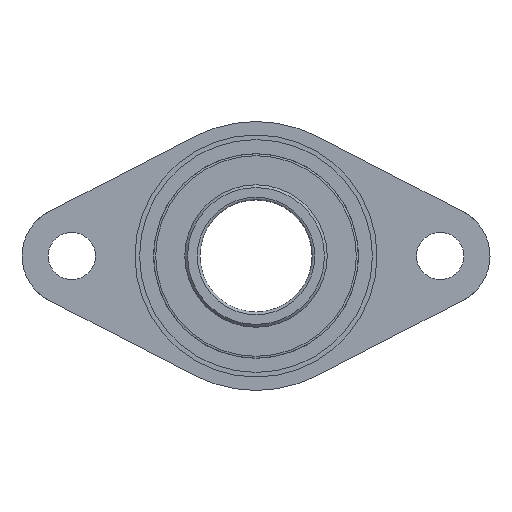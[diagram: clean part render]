
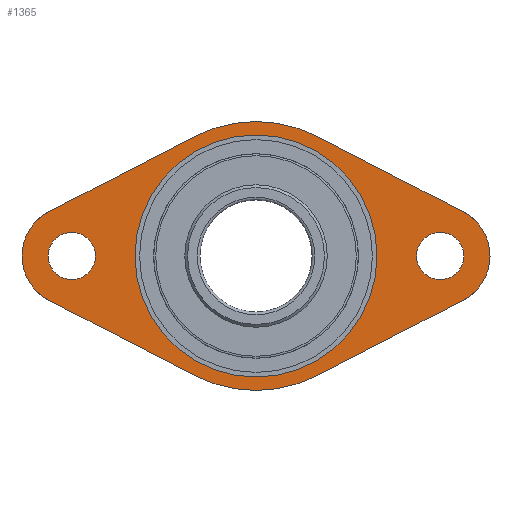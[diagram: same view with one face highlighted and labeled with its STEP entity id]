
A CAD part, left-side view. The second image highlights one B-rep face of the part: STEP entity #1365.
In plain terms, the highlighted planar face has unit normal (-1, 0, 0).
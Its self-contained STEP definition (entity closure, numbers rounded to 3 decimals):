
#8 = CIRCLE ( 'NONE', #1864, 9.5 ) ;
#11 = LINE ( 'NONE', #2643, #15 ) ;
#15 = VECTOR ( 'NONE', #2781, 1000. ) ;
#20 = CIRCLE ( 'NONE', #1873, 20. ) ;
#44 = LINE ( 'NONE', #2506, #49 ) ;
#49 = VECTOR ( 'NONE', #2202, 1000. ) ;
#52 = CIRCLE ( 'NONE', #1912, 54. ) ;
#61 = CIRCLE ( 'NONE', #1944, 20. ) ;
#110 = EDGE_LOOP ( 'NONE', ( #1507, #1486, #295, #230, #2490, #2654, #190, #135 ) ) ;
#135 = ORIENTED_EDGE ( 'NONE', *, *, #1926, .F. ) ;
#162 = PLANE ( 'NONE',  #1489 ) ;
#186 = CARTESIAN_POINT ( 'NONE',  ( -22., 24.811, -47.963 ) ) ;
#190 = ORIENTED_EDGE ( 'NONE', *, *, #1261, .T. ) ;
#214 = CARTESIAN_POINT ( 'NONE',  ( -22., -74., -9.5 ) ) ;
#215 = LINE ( 'NONE', #1549, #260 ) ;
#226 = CARTESIAN_POINT ( 'NONE',  ( -22., 0., -48.6 ) ) ;
#227 = CARTESIAN_POINT ( 'NONE',  ( -22., 74., -9.5 ) ) ;
#228 = CARTESIAN_POINT ( 'NONE',  ( -22., 0., 0. ) ) ;
#229 = DIRECTION ( 'NONE',  ( 1., 0., 0. ) ) ;
#230 = ORIENTED_EDGE ( 'NONE', *, *, #1125, .F. ) ;
#235 = DIRECTION ( 'NONE',  ( 0., 0., -1. ) ) ;
#243 = CARTESIAN_POINT ( 'NONE',  ( -22., 0., 0. ) ) ;
#248 = LINE ( 'NONE', #1518, #264 ) ;
#253 = DIRECTION ( 'NONE',  ( 1., 0., 0. ) ) ;
#256 = DIRECTION ( 'NONE',  ( 0., 0., -1. ) ) ;
#260 = VECTOR ( 'NONE', #1535, 1000. ) ;
#264 = VECTOR ( 'NONE', #1509, 1000. ) ;
#294 = CARTESIAN_POINT ( 'NONE',  ( -22., 83.189, 17.764 ) ) ;
#295 = ORIENTED_EDGE ( 'NONE', *, *, #769, .T. ) ;
#321 = EDGE_LOOP ( 'NONE', ( #2259 ) ) ;
#468 = VERTEX_POINT ( 'NONE', #1498 ) ;
#583 = CARTESIAN_POINT ( 'NONE',  ( -22., -24.811, 47.963 ) ) ;
#584 = EDGE_LOOP ( 'NONE', ( #1978 ) ) ;
#594 = CARTESIAN_POINT ( 'NONE',  ( -22., -74., 0. ) ) ;
#595 = DIRECTION ( 'NONE',  ( 1., 0., 0. ) ) ;
#596 = VERTEX_POINT ( 'NONE', #186 ) ;
#599 = DIRECTION ( 'NONE',  ( 0., 0., -1. ) ) ;
#743 = ORIENTED_EDGE ( 'NONE', *, *, #1286, .T. ) ;
#769 = EDGE_CURVE ( 'E240', #2550, #2856, #248, .T. ) ;
#790 = EDGE_CURVE ( 'E329', #894, #468, #215, .T. ) ;
#855 = VERTEX_POINT ( 'NONE', #1602 ) ;
#894 = VERTEX_POINT ( 'NONE', #1651 ) ;
#1111 = EDGE_CURVE ( 'E246', #2550, #894, #61, .T. ) ;
#1125 = EDGE_CURVE ( 'E214', #2318, #2856, #52, .T. ) ;
#1151 = EDGE_CURVE ( 'E193', #1481, #2318, #44, .T. ) ;
#1259 = EDGE_CURVE ( 'E382', #855, #1481, #20, .T. ) ;
#1261 = EDGE_CURVE ( 'E376', #855, #596, #11, .T. ) ;
#1286 = EDGE_CURVE ( 'NONE', #1397, #1397, #8, .T. ) ;
#1320 = EDGE_CURVE ( 'NONE', #1392, #1392, #2594, .T. ) ;
#1365 = ADVANCED_FACE ( 'E454', ( #2725, #2598, #2835, #2956 ), #162, .F. ) ;
#1373 = VERTEX_POINT ( 'NONE', #214 ) ;
#1392 = VERTEX_POINT ( 'NONE', #226 ) ;
#1397 = VERTEX_POINT ( 'NONE', #227 ) ;
#1481 = VERTEX_POINT ( 'NONE', #294 ) ;
#1486 = ORIENTED_EDGE ( 'NONE', *, *, #1111, .F. ) ;
#1489 = AXIS2_PLACEMENT_3D ( 'NONE', #243, #253, #256 ) ;
#1498 = CARTESIAN_POINT ( 'NONE',  ( -22., -24.811, -47.963 ) ) ;
#1507 = ORIENTED_EDGE ( 'NONE', *, *, #790, .F. ) ;
#1509 = DIRECTION ( 'NONE',  ( 0., 0.888, 0.459 ) ) ;
#1518 = CARTESIAN_POINT ( 'NONE',  ( -22., -83.189, 17.764 ) ) ;
#1535 = DIRECTION ( 'NONE',  ( 0., 0.888, -0.459 ) ) ;
#1549 = CARTESIAN_POINT ( 'NONE',  ( -22., -83.189, -17.764 ) ) ;
#1602 = CARTESIAN_POINT ( 'NONE',  ( -22., 83.189, -17.764 ) ) ;
#1651 = CARTESIAN_POINT ( 'NONE',  ( -22., -83.189, -17.764 ) ) ;
#1652 = EDGE_LOOP ( 'NONE', ( #743 ) ) ;
#1659 = CARTESIAN_POINT ( 'NONE',  ( -22., -83.189, 17.764 ) ) ;
#1722 = AXIS2_PLACEMENT_3D ( 'NONE', #2125, #2177, #2097 ) ;
#1788 = EDGE_CURVE ( 'NONE', #1373, #1373, #2773, .T. ) ;
#1790 = AXIS2_PLACEMENT_3D ( 'NONE', #594, #595, #599 ) ;
#1855 = AXIS2_PLACEMENT_3D ( 'NONE', #228, #229, #235 ) ;
#1864 = AXIS2_PLACEMENT_3D ( 'NONE', #2900, #2921, #2923 ) ;
#1873 = AXIS2_PLACEMENT_3D ( 'NONE', #2814, #2823, #2834 ) ;
#1897 = CARTESIAN_POINT ( 'NONE',  ( -22., 24.811, 47.963 ) ) ;
#1912 = AXIS2_PLACEMENT_3D ( 'NONE', #2152, #2157, #2164 ) ;
#1926 = EDGE_CURVE ( 'E350', #468, #596, #2780, .T. ) ;
#1944 = AXIS2_PLACEMENT_3D ( 'NONE', #2098, #2104, #2108 ) ;
#1978 = ORIENTED_EDGE ( 'NONE', *, *, #1788, .T. ) ;
#2097 = DIRECTION ( 'NONE',  ( 0., 0., -1. ) ) ;
#2098 = CARTESIAN_POINT ( 'NONE',  ( -22., -74., 0. ) ) ;
#2104 = DIRECTION ( 'NONE',  ( 1., 0., 0. ) ) ;
#2108 = DIRECTION ( 'NONE',  ( 0., 0., -1. ) ) ;
#2125 = CARTESIAN_POINT ( 'NONE',  ( -22., 0., 0. ) ) ;
#2152 = CARTESIAN_POINT ( 'NONE',  ( -22., 0., 0. ) ) ;
#2157 = DIRECTION ( 'NONE',  ( 1., 0., 0. ) ) ;
#2164 = DIRECTION ( 'NONE',  ( 0., 0., -1. ) ) ;
#2177 = DIRECTION ( 'NONE',  ( 1., 0., 0. ) ) ;
#2202 = DIRECTION ( 'NONE',  ( 0., -0.888, 0.459 ) ) ;
#2259 = ORIENTED_EDGE ( 'NONE', *, *, #1320, .T. ) ;
#2318 = VERTEX_POINT ( 'NONE', #1897 ) ;
#2490 = ORIENTED_EDGE ( 'NONE', *, *, #1151, .F. ) ;
#2506 = CARTESIAN_POINT ( 'NONE',  ( -22., 83.189, 17.764 ) ) ;
#2550 = VERTEX_POINT ( 'NONE', #1659 ) ;
#2594 = CIRCLE ( 'NONE', #1855, 48.6 ) ;
#2598 = FACE_BOUND ( 'NONE', #584, .T. ) ;
#2643 = CARTESIAN_POINT ( 'NONE',  ( -22., 83.189, -17.764 ) ) ;
#2654 = ORIENTED_EDGE ( 'NONE', *, *, #1259, .F. ) ;
#2725 = FACE_BOUND ( 'NONE', #321, .T. ) ;
#2773 = CIRCLE ( 'NONE', #1790, 9.5 ) ;
#2780 = CIRCLE ( 'NONE', #1722, 54. ) ;
#2781 = DIRECTION ( 'NONE',  ( 0., -0.888, -0.459 ) ) ;
#2814 = CARTESIAN_POINT ( 'NONE',  ( -22., 74., 0. ) ) ;
#2823 = DIRECTION ( 'NONE',  ( 1., 0., 0. ) ) ;
#2834 = DIRECTION ( 'NONE',  ( 0., 0., -1. ) ) ;
#2835 = FACE_BOUND ( 'NONE', #1652, .T. ) ;
#2856 = VERTEX_POINT ( 'NONE', #583 ) ;
#2900 = CARTESIAN_POINT ( 'NONE',  ( -22., 74., 0. ) ) ;
#2921 = DIRECTION ( 'NONE',  ( 1., 0., 0. ) ) ;
#2923 = DIRECTION ( 'NONE',  ( 0., 0., -1. ) ) ;
#2956 = FACE_OUTER_BOUND ( 'NONE', #110, .T. ) ;
